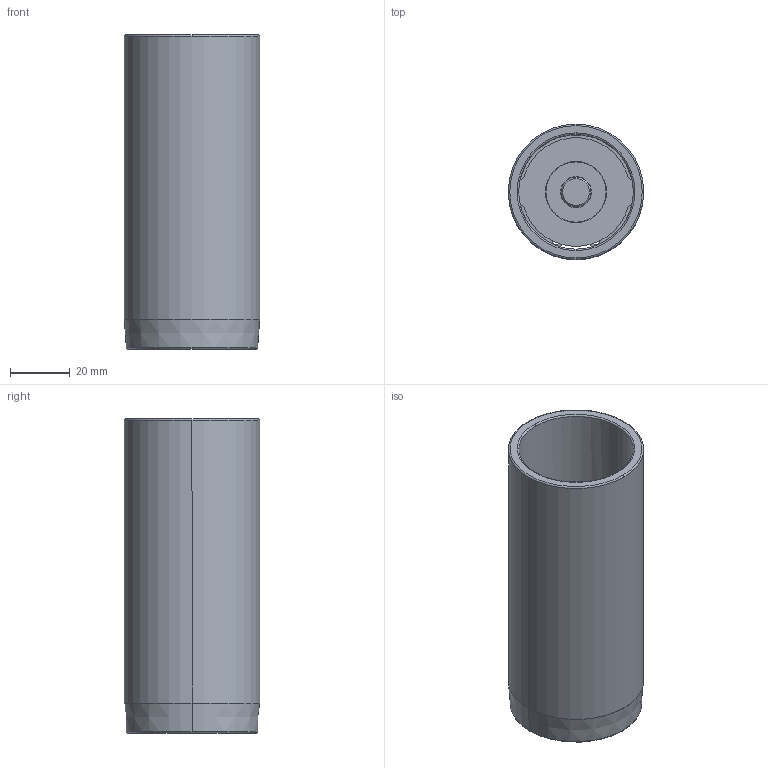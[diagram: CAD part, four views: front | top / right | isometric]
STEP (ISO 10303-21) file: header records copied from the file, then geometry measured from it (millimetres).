
FILE_DESCRIPTION((''),'2;1');
FILE_NAME('C12_038_105.stp','2009-01-28T11:29:31',(''),(''),'Mechanical Desktop 2009','Mechanical Desktop 2009',', , ');
FILE_SCHEMA(('CONFIG_CONTROL_DESIGN'));
Length unit declared in the file: millimetre
Products named in the file (2): Product; blmdl1
Assembly tree (1 placements, depth 2):
  Product
    blmdl1
Bounding box: 45.25 x 45.25 x 105 mm (x, y, z)
Volume: 52448 mm3; surface area: 34473.1 mm2
Topology: 5 solids, 5 shells, 79 faces, 200 edges, 134 vertices
Faces by surface type: cylinder 34, plane 29, torus 10, cone 6
Entity records: 2585 total; most frequent: DIRECTION 480, CARTESIAN_POINT 435, ORIENTED_EDGE 400, AXIS2_PLACEMENT_3D 203, EDGE_CURVE 200, VERTEX_POINT 134, CIRCLE 122, EDGE_LOOP 92
